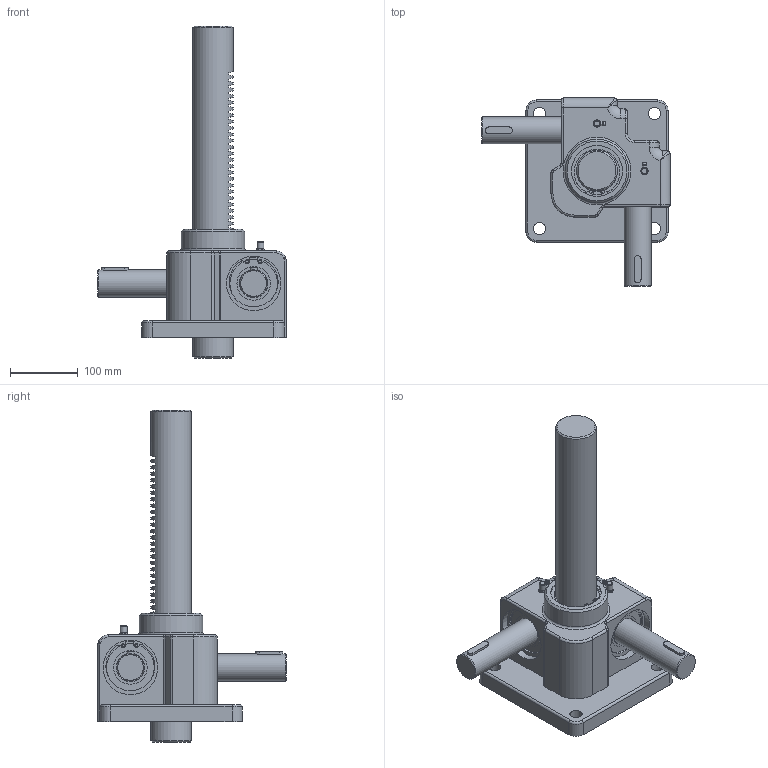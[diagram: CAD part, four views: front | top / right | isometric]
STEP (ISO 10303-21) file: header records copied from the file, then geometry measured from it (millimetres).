
FILE_DESCRIPTION(('STEP AP203'),'1');
FILE_NAME('SP1-20000U-300ST.stp','2022-06-15T06:51:39',(' '),(' '),'Spatial InterOp 3D',' ',' ');
FILE_SCHEMA(('CONFIG_CONTROL_DESIGN'));
Length unit declared in the file: millimetre
Products named in the file (16): SP1-20000U-300ST; Rack Gear(SP-20000); Body-Part; #445; SnapRing-78Pie; SnapRing-83.5Pie; Du Bush; Key; Nipple; Shaft(SP1-20000); Gear Box(SP-20000); RJ05-4SCJ-610X600-100ST_CAP; LABEL-B.1; ___; 파트18; __
Assembly tree (22 placements, depth 5):
  SP1-20000U-300ST
    Rack Gear(SP-20000)
    Body-Part
      #445  x2
      SnapRing-78Pie  x2
      SnapRing-83.5Pie  x2
      Du Bush  x2
      Key  x2
      Nipple  x2
      Shaft(SP1-20000)  x2
      Gear Box(SP-20000)
    __
      ___
        RJ05-4SCJ-610X600-100ST_CAP
          LABEL-B.1
        파트18
Bounding box: 278 x 278.25 x 490 mm (x, y, z)
Volume: 3805261.6 mm3; surface area: 545231.3 mm2
Topology: 24 solids, 24 shells, 2557 faces, 7023 edges, 4507 vertices
Faces by surface type: plane 2025, cylinder 322, sphere 88, torus 66, cone 34, bspline 16, revolution 6
Full cylindrical faces by diameter (mm): 4.379 x4, 4.69 x4, 5.6 x2, 8 x2, 9.886 x2, 18 x5, 30 x2, 40 x4, 44 x2, 49.543 x4, 60 x3, 64 x1, 70 x4, 70.313 x4, 75 x2, 78 x2, 80 x4, 80.4 x2, 83.5 x2, 94 x1
Entity records: 78785 total; most frequent: CARTESIAN_POINT 16463, ORIENTED_EDGE 12992, DIRECTION 12132, EDGE_CURVE 6496, LINE 5516, VECTOR 5516, VERTEX_POINT 4256, AXIS2_PLACEMENT_3D 3306
